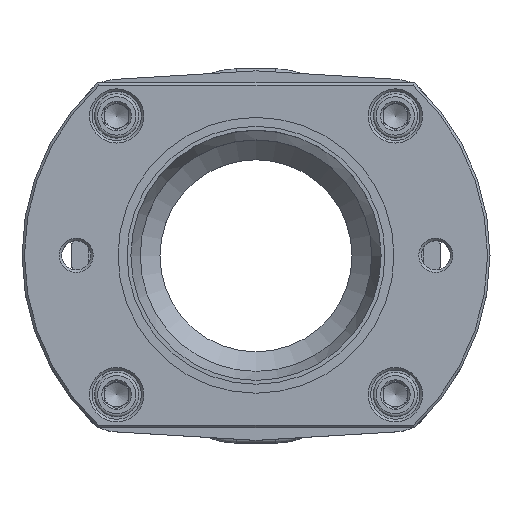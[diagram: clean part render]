
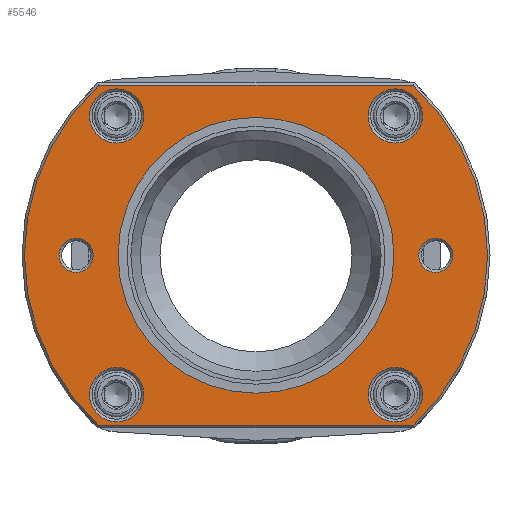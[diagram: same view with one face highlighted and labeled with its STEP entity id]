
A CAD part, top view. The second image highlights one B-rep face of the part: STEP entity #5546.
In plain terms, the highlighted planar face has unit normal (0, 0, 1).
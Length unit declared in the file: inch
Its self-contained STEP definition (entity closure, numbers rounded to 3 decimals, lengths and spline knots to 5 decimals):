
#120=FACE_BOUND('',#919,.T.);
#121=FACE_BOUND('',#920,.T.);
#122=FACE_BOUND('',#921,.T.);
#123=FACE_BOUND('',#922,.T.);
#124=FACE_BOUND('',#923,.T.);
#125=FACE_BOUND('',#924,.T.);
#126=FACE_BOUND('',#925,.T.);
#392=PLANE('',#6028);
#575=FACE_OUTER_BOUND('',#918,.T.);
#918=EDGE_LOOP('',(#4047,#4048,#4049,#4050));
#919=EDGE_LOOP('',(#4051));
#920=EDGE_LOOP('',(#4052));
#921=EDGE_LOOP('',(#4053));
#922=EDGE_LOOP('',(#4054));
#923=EDGE_LOOP('',(#4055));
#924=EDGE_LOOP('',(#4056));
#925=EDGE_LOOP('',(#4057));
#1298=LINE('',#8971,#1612);
#1299=LINE('',#8974,#1613);
#1612=VECTOR('',#7095,0.3937);
#1613=VECTOR('',#7098,0.3937);
#1900=CIRCLE('',#6025,0.27234);
#1903=CIRCLE('',#6029,3.70079);
#1904=CIRCLE('',#6030,3.70079);
#1905=CIRCLE('',#6031,0.27234);
#1906=CIRCLE('',#6032,0.43307);
#1907=CIRCLE('',#6033,0.43307);
#1908=CIRCLE('',#6034,2.20472);
#1909=CIRCLE('',#6035,0.43307);
#1910=CIRCLE('',#6036,0.43307);
#2356=VERTEX_POINT('',#8959);
#2359=VERTEX_POINT('',#8967);
#2360=VERTEX_POINT('',#8968);
#2361=VERTEX_POINT('',#8970);
#2362=VERTEX_POINT('',#8972);
#2363=VERTEX_POINT('',#8975);
#2364=VERTEX_POINT('',#8977);
#2365=VERTEX_POINT('',#8979);
#2366=VERTEX_POINT('',#8981);
#2367=VERTEX_POINT('',#8983);
#2368=VERTEX_POINT('',#8985);
#2953=EDGE_CURVE('',#2356,#2356,#1900,.T.);
#2957=EDGE_CURVE('',#2359,#2360,#1903,.T.);
#2958=EDGE_CURVE('',#2361,#2359,#1298,.T.);
#2959=EDGE_CURVE('',#2362,#2361,#1904,.T.);
#2960=EDGE_CURVE('',#2360,#2362,#1299,.T.);
#2961=EDGE_CURVE('',#2363,#2363,#1905,.T.);
#2962=EDGE_CURVE('',#2364,#2364,#1906,.T.);
#2963=EDGE_CURVE('',#2365,#2365,#1907,.T.);
#2964=EDGE_CURVE('',#2366,#2366,#1908,.T.);
#2965=EDGE_CURVE('',#2367,#2367,#1909,.T.);
#2966=EDGE_CURVE('',#2368,#2368,#1910,.T.);
#4047=ORIENTED_EDGE('',*,*,#2957,.F.);
#4048=ORIENTED_EDGE('',*,*,#2958,.F.);
#4049=ORIENTED_EDGE('',*,*,#2959,.F.);
#4050=ORIENTED_EDGE('',*,*,#2960,.F.);
#4051=ORIENTED_EDGE('',*,*,#2961,.F.);
#4052=ORIENTED_EDGE('',*,*,#2962,.F.);
#4053=ORIENTED_EDGE('',*,*,#2963,.F.);
#4054=ORIENTED_EDGE('',*,*,#2964,.T.);
#4055=ORIENTED_EDGE('',*,*,#2965,.F.);
#4056=ORIENTED_EDGE('',*,*,#2966,.F.);
#4057=ORIENTED_EDGE('',*,*,#2953,.F.);
#5546=ADVANCED_FACE('',(#575,#120,#121,#122,#123,#124,#125,#126),#392,.T.);
#6025=AXIS2_PLACEMENT_3D('',#8960,#7084,#7085);
#6028=AXIS2_PLACEMENT_3D('',#8966,#7091,#7092);
#6029=AXIS2_PLACEMENT_3D('',#8969,#7093,#7094);
#6030=AXIS2_PLACEMENT_3D('',#8973,#7096,#7097);
#6031=AXIS2_PLACEMENT_3D('',#8976,#7099,#7100);
#6032=AXIS2_PLACEMENT_3D('',#8978,#7101,#7102);
#6033=AXIS2_PLACEMENT_3D('',#8980,#7103,#7104);
#6034=AXIS2_PLACEMENT_3D('',#8982,#7105,#7106);
#6035=AXIS2_PLACEMENT_3D('',#8984,#7107,#7108);
#6036=AXIS2_PLACEMENT_3D('',#8986,#7109,#7110);
#7084=DIRECTION('center_axis',(0.,0.,
1.));
#7085=DIRECTION('ref_axis',(-1.,0.,0.));
#7091=DIRECTION('center_axis',(0.,0.,
1.));
#7092=DIRECTION('ref_axis',(1.,0.,0.));
#7093=DIRECTION('center_axis',(0.,0.,
-1.));
#7094=DIRECTION('ref_axis',(0.676,-0.737,0.));
#7095=DIRECTION('',(1.,0.,0.));
#7096=DIRECTION('center_axis',(0.,0.,
-1.));
#7097=DIRECTION('ref_axis',(-0.676,0.737,0.));
#7098=DIRECTION('',(-1.,0.,0.));
#7099=DIRECTION('center_axis',(0.,0.,
1.));
#7100=DIRECTION('ref_axis',(-1.,0.,0.));
#7101=DIRECTION('center_axis',(0.,0.,
1.));
#7102=DIRECTION('ref_axis',(-1.,0.,0.));
#7103=DIRECTION('center_axis',(0.,0.,
1.));
#7104=DIRECTION('ref_axis',(-1.,0.,0.));
#7105=DIRECTION('center_axis',(0.,0.,
-1.));
#7106=DIRECTION('ref_axis',(-1.,0.,0.));
#7107=DIRECTION('center_axis',(0.,0.,
1.));
#7108=DIRECTION('ref_axis',(-1.,0.,0.));
#7109=DIRECTION('center_axis',(0.,0.,
1.));
#7110=DIRECTION('ref_axis',(-1.,0.,0.));
#8959=CARTESIAN_POINT('',(3.14636,0.,4.98031));
#8960=CARTESIAN_POINT('Origin',(2.87402,0.,4.98031));
#8966=CARTESIAN_POINT('Origin',(0.,0.,
4.98031));
#8967=CARTESIAN_POINT('',(2.51322,2.71654,4.98031));
#8968=CARTESIAN_POINT('',(2.51322,-2.71654,4.98031));
#8969=CARTESIAN_POINT('Origin',(0.,0.,
4.98031));
#8970=CARTESIAN_POINT('',(-2.51322,2.71654,4.98031));
#8971=CARTESIAN_POINT('',(-1.26429,2.71654,4.98031));
#8972=CARTESIAN_POINT('',(-2.51322,-2.71654,4.98031));
#8973=CARTESIAN_POINT('Origin',(0.,0.,
4.98031));
#8974=CARTESIAN_POINT('',(1.26429,-2.71654,4.98031));
#8975=CARTESIAN_POINT('',(-2.60167,0.,4.98031));
#8976=CARTESIAN_POINT('Origin',(-2.87402,0.,
4.98031));
#8977=CARTESIAN_POINT('',(2.66018,2.22711,4.98031));
#8978=CARTESIAN_POINT('Origin',(2.22711,2.22711,4.98031));
#8979=CARTESIAN_POINT('',(2.66018,-2.22711,4.98031));
#8980=CARTESIAN_POINT('Origin',(2.22711,-2.22711,4.98031));
#8981=CARTESIAN_POINT('',(2.20472,0.,4.98031));
#8982=CARTESIAN_POINT('Origin',(0.,0.,
4.98031));
#8983=CARTESIAN_POINT('',(-1.79404,2.22711,4.98031));
#8984=CARTESIAN_POINT('Origin',(-2.22711,2.22711,4.98031));
#8985=CARTESIAN_POINT('',(-1.79404,-2.22711,4.98031));
#8986=CARTESIAN_POINT('Origin',(-2.22711,-2.22711,4.98031));
